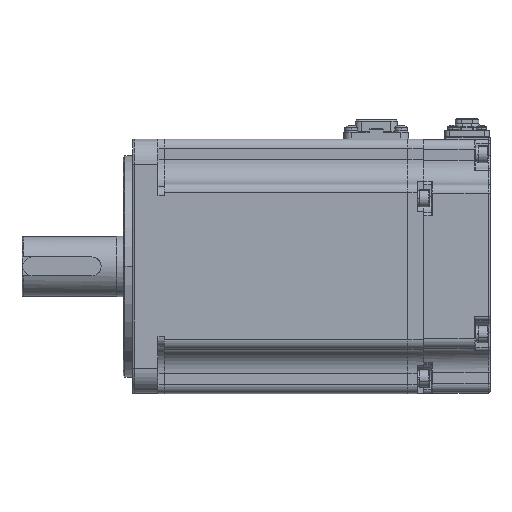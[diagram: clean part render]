
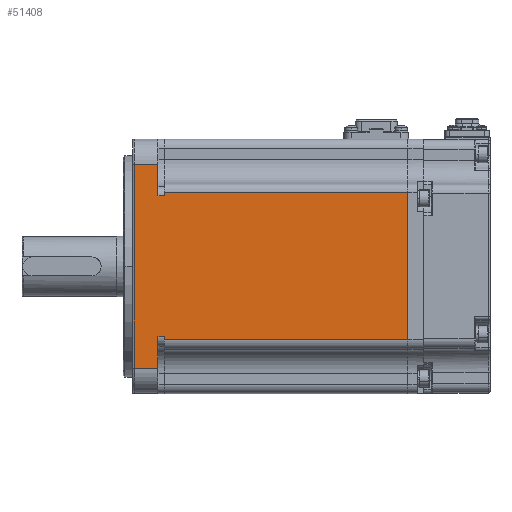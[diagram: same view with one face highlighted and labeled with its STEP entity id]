
A CAD part, top view. The second image highlights one B-rep face of the part: STEP entity #51408.
In plain terms, the highlighted planar face has unit normal (0, 0, 1).
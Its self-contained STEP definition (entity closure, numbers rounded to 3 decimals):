
#70 = VECTOR ( 'NONE', #40781, 1000. ) ;
#273 = CARTESIAN_POINT ( 'NONE',  ( -3., -32.25, 40.25 ) ) ;
#1458 = EDGE_CURVE ( 'NONE', #12151, #28705, #36228, .T. ) ;
#1630 = CARTESIAN_POINT ( 'NONE',  ( 8., 40.25, 40.25 ) ) ;
#2031 = LINE ( 'NONE', #8075, #64457 ) ;
#2128 = CARTESIAN_POINT ( 'NONE',  ( 0.5, -32.25, 40.25 ) ) ;
#2392 = EDGE_CURVE ( 'NONE', #27160, #15270, #21341, .T. ) ;
#2704 = DIRECTION ( 'NONE',  ( -1., 0., 0. ) ) ;
#3133 = EDGE_CURVE ( 'NONE', #12151, #48708, #42162, .T. ) ;
#4934 = CARTESIAN_POINT ( 'NONE',  ( 8., 22.25, 40.25 ) ) ;
#5290 = CARTESIAN_POINT ( 'NONE',  ( 10., -23.25, 40.25 ) ) ;
#5632 = DIRECTION ( 'NONE',  ( 0., 1., 0. ) ) ;
#6283 = CARTESIAN_POINT ( 'NONE',  ( 8., 23.25, 40.25 ) ) ;
#7987 = DIRECTION ( 'NONE',  ( -1., 0., 0. ) ) ;
#8075 = CARTESIAN_POINT ( 'NONE',  ( 10., -22.25, 40.25 ) ) ;
#8405 = ORIENTED_EDGE ( 'NONE', *, *, #3133, .T. ) ;
#9239 = EDGE_CURVE ( 'NONE', #70155, #56061, #25593, .T. ) ;
#9423 = ORIENTED_EDGE ( 'NONE', *, *, #9239, .F. ) ;
#10786 = LINE ( 'NONE', #17191, #40582 ) ;
#11271 = ORIENTED_EDGE ( 'NONE', *, *, #14493, .F. ) ;
#12151 = VERTEX_POINT ( 'NONE', #32618 ) ;
#14493 = EDGE_CURVE ( 'NONE', #27160, #68850, #2031, .T. ) ;
#15270 = VERTEX_POINT ( 'NONE', #67635 ) ;
#15459 = CARTESIAN_POINT ( 'NONE',  ( 8., 32.25, 40.25 ) ) ;
#15948 = LINE ( 'NONE', #53706, #43410 ) ;
#17191 = CARTESIAN_POINT ( 'NONE',  ( 10., 23.25, 40.25 ) ) ;
#17367 = CARTESIAN_POINT ( 'NONE',  ( 87., -23.25, 40.25 ) ) ;
#18421 = EDGE_LOOP ( 'NONE', ( #30495, #27552, #58380, #19568, #29105, #8405, #61965, #59514, #11271, #50639, #22975, #9423 ) ) ;
#18497 = VERTEX_POINT ( 'NONE', #61345 ) ;
#19413 = CARTESIAN_POINT ( 'NONE',  ( 10., -22.25, 40.25 ) ) ;
#19568 = ORIENTED_EDGE ( 'NONE', *, *, #23607, .T. ) ;
#19800 = DIRECTION ( 'NONE',  ( -1., 0., 0. ) ) ;
#21341 = LINE ( 'NONE', #5290, #60721 ) ;
#21788 = AXIS2_PLACEMENT_3D ( 'NONE', #30684, #63446, #52417 ) ;
#21879 = VERTEX_POINT ( 'NONE', #41439 ) ;
#22975 = ORIENTED_EDGE ( 'NONE', *, *, #43192, .T. ) ;
#23607 = EDGE_CURVE ( 'NONE', #66260, #28705, #66843, .T. ) ;
#25165 = LINE ( 'NONE', #68285, #38357 ) ;
#25593 = LINE ( 'NONE', #64036, #55759 ) ;
#27160 = VERTEX_POINT ( 'NONE', #19413 ) ;
#27351 = EDGE_CURVE ( 'NONE', #21879, #58602, #10786, .T. ) ;
#27552 = ORIENTED_EDGE ( 'NONE', *, *, #27351, .T. ) ;
#28705 = VERTEX_POINT ( 'NONE', #15459 ) ;
#29105 = ORIENTED_EDGE ( 'NONE', *, *, #1458, .F. ) ;
#29607 = CARTESIAN_POINT ( 'NONE',  ( 10., 22.25, 40.25 ) ) ;
#29608 = VECTOR ( 'NONE', #33015, 1000. ) ;
#30495 = ORIENTED_EDGE ( 'NONE', *, *, #53508, .T. ) ;
#30684 = CARTESIAN_POINT ( 'NONE',  ( -3., 32.25, 40.25 ) ) ;
#32618 = CARTESIAN_POINT ( 'NONE',  ( 0.5, 32.25, 40.25 ) ) ;
#33015 = DIRECTION ( 'NONE',  ( 1., 0., 0. ) ) ;
#33049 = DIRECTION ( 'NONE',  ( 0., -1., 0. ) ) ;
#34012 = EDGE_CURVE ( 'NONE', #58602, #66260, #25165, .T. ) ;
#35046 = LINE ( 'NONE', #6283, #35658 ) ;
#35658 = VECTOR ( 'NONE', #7987, 1000. ) ;
#36228 = LINE ( 'NONE', #57600, #48795 ) ;
#38357 = VECTOR ( 'NONE', #19800, 1000. ) ;
#39735 = DIRECTION ( 'NONE',  ( 0., 1., 0. ) ) ;
#40582 = VECTOR ( 'NONE', #64590, 1000. ) ;
#40781 = DIRECTION ( 'NONE',  ( 0., -1., 0. ) ) ;
#40908 = CARTESIAN_POINT ( 'NONE',  ( 87., -23.25, 40.25 ) ) ;
#41439 = CARTESIAN_POINT ( 'NONE',  ( 10., 23.25, 40.25 ) ) ;
#42162 = LINE ( 'NONE', #67884, #70 ) ;
#43192 = EDGE_CURVE ( 'NONE', #15270, #56061, #68021, .T. ) ;
#43410 = VECTOR ( 'NONE', #5632, 1000. ) ;
#48708 = VERTEX_POINT ( 'NONE', #2128 ) ;
#48795 = VECTOR ( 'NONE', #52943, 1000. ) ;
#50639 = ORIENTED_EDGE ( 'NONE', *, *, #2392, .T. ) ;
#51408 = ADVANCED_FACE ( 'NONE', ( #57391 ), #62409, .T. ) ;
#51686 = VECTOR ( 'NONE', #39735, 1000. ) ;
#52030 = CARTESIAN_POINT ( 'NONE',  ( 87., 23.25, 40.25 ) ) ;
#52417 = DIRECTION ( 'NONE',  ( 0., -1., 0. ) ) ;
#52659 = DIRECTION ( 'NONE',  ( 1., 0., 0. ) ) ;
#52943 = DIRECTION ( 'NONE',  ( 1., 0., 0. ) ) ;
#53508 = EDGE_CURVE ( 'NONE', #70155, #21879, #35046, .T. ) ;
#53706 = CARTESIAN_POINT ( 'NONE',  ( 8., 32.25, 40.25 ) ) ;
#55088 = LINE ( 'NONE', #273, #29608 ) ;
#55596 = CARTESIAN_POINT ( 'NONE',  ( 8., -22.25, 40.25 ) ) ;
#55759 = VECTOR ( 'NONE', #64401, 1000. ) ;
#56061 = VERTEX_POINT ( 'NONE', #17367 ) ;
#56635 = VECTOR ( 'NONE', #52659, 1000. ) ;
#57391 = FACE_OUTER_BOUND ( 'NONE', #18421, .T. ) ;
#57600 = CARTESIAN_POINT ( 'NONE',  ( -3., 32.25, 40.25 ) ) ;
#58380 = ORIENTED_EDGE ( 'NONE', *, *, #34012, .T. ) ;
#58602 = VERTEX_POINT ( 'NONE', #29607 ) ;
#59514 = ORIENTED_EDGE ( 'NONE', *, *, #67191, .T. ) ;
#60721 = VECTOR ( 'NONE', #33049, 1000. ) ;
#61345 = CARTESIAN_POINT ( 'NONE',  ( 8., -32.25, 40.25 ) ) ;
#61965 = ORIENTED_EDGE ( 'NONE', *, *, #63291, .T. ) ;
#62409 = PLANE ( 'NONE',  #21788 ) ;
#63291 = EDGE_CURVE ( 'NONE', #48708, #18497, #55088, .T. ) ;
#63446 = DIRECTION ( 'NONE',  ( 0., 0., 1. ) ) ;
#64036 = CARTESIAN_POINT ( 'NONE',  ( 87., 32.25, 40.25 ) ) ;
#64401 = DIRECTION ( 'NONE',  ( 0., -1., 0. ) ) ;
#64457 = VECTOR ( 'NONE', #2704, 1000. ) ;
#64590 = DIRECTION ( 'NONE',  ( 0., -1., 0. ) ) ;
#66260 = VERTEX_POINT ( 'NONE', #4934 ) ;
#66843 = LINE ( 'NONE', #1630, #51686 ) ;
#67191 = EDGE_CURVE ( 'NONE', #18497, #68850, #15948, .T. ) ;
#67635 = CARTESIAN_POINT ( 'NONE',  ( 10., -23.25, 40.25 ) ) ;
#67884 = CARTESIAN_POINT ( 'NONE',  ( 0.5, -32.25, 40.25 ) ) ;
#68021 = LINE ( 'NONE', #40908, #56635 ) ;
#68285 = CARTESIAN_POINT ( 'NONE',  ( 10., 22.25, 40.25 ) ) ;
#68850 = VERTEX_POINT ( 'NONE', #55596 ) ;
#70155 = VERTEX_POINT ( 'NONE', #52030 ) ;
